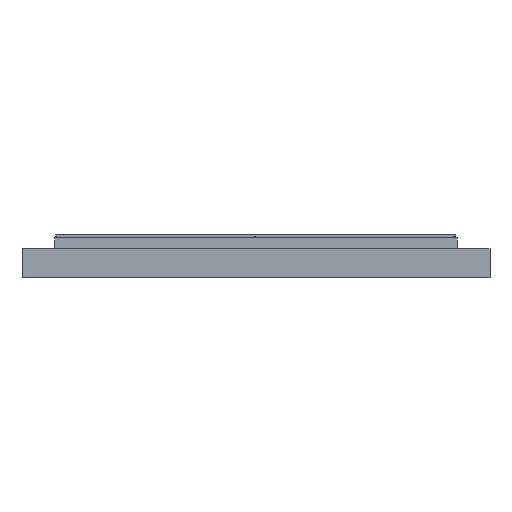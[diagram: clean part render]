
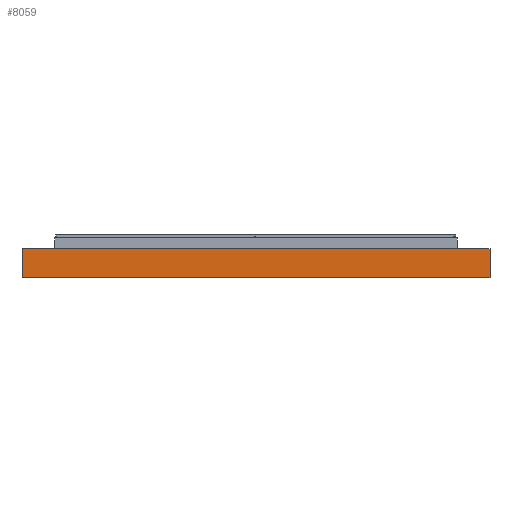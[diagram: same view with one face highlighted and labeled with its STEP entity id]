
A CAD part, front view. The second image highlights one B-rep face of the part: STEP entity #8059.
In plain terms, the highlighted planar face has unit normal (-0.035, -0.999, 0).
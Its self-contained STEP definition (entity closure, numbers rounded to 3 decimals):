
#709 = FACE_OUTER_BOUND ( 'NONE', #6146, .T. ) ;
#1925 = AXIS2_PLACEMENT_3D ( 'NONE', #2815, #23144, #6329 ) ;
#2815 = CARTESIAN_POINT ( 'NONE',  ( 65., 453.755, 8. ) ) ;
#2977 = ORIENTED_EDGE ( 'NONE', *, *, #17693, .F. ) ;
#3110 = EDGE_CURVE ( 'NONE', #14709, #8401, #9892, .T. ) ;
#3506 = VECTOR ( 'NONE', #12921, 1000. ) ;
#3587 = VECTOR ( 'NONE', #10098, 1000. ) ;
#4021 = CARTESIAN_POINT ( 'NONE',  ( 65., 453.755, 0. ) ) ;
#4067 = VECTOR ( 'NONE', #17981, 1000. ) ;
#4391 = LINE ( 'NONE', #4021, #9282 ) ;
#6146 = EDGE_LOOP ( 'NONE', ( #20187, #2977, #6813, #15192 ) ) ;
#6329 = DIRECTION ( 'NONE',  ( 0., 0., -1. ) ) ;
#6813 = ORIENTED_EDGE ( 'NONE', *, *, #9032, .F. ) ;
#7576 = DIRECTION ( 'NONE',  ( -0.999, 0.035, 0. ) ) ;
#8059 = ADVANCED_FACE ( 'NONE', ( #709 ), #17435, .T. ) ;
#8294 = CARTESIAN_POINT ( 'NONE',  ( -64.5, 458.277, 0. ) ) ;
#8401 = VERTEX_POINT ( 'NONE', #15154 ) ;
#9032 = EDGE_CURVE ( 'NONE', #14709, #9750, #14153, .T. ) ;
#9282 = VECTOR ( 'NONE', #7576, 1000. ) ;
#9750 = VERTEX_POINT ( 'NONE', #18028 ) ;
#9892 = LINE ( 'NONE', #10021, #3587 ) ;
#10021 = CARTESIAN_POINT ( 'NONE',  ( 65., 453.755, 8. ) ) ;
#10098 = DIRECTION ( 'NONE',  ( -0.999, 0.035, 0. ) ) ;
#12300 = CARTESIAN_POINT ( 'NONE',  ( -64.5, 458.277, 8. ) ) ;
#12921 = DIRECTION ( 'NONE',  ( 0., 0., 1. ) ) ;
#14153 = LINE ( 'NONE', #14589, #4067 ) ;
#14589 = CARTESIAN_POINT ( 'NONE',  ( 64.5, 453.773, 8. ) ) ;
#14709 = VERTEX_POINT ( 'NONE', #17866 ) ;
#15154 = CARTESIAN_POINT ( 'NONE',  ( -64.5, 458.277, 8. ) ) ;
#15192 = ORIENTED_EDGE ( 'NONE', *, *, #3110, .T. ) ;
#17435 = PLANE ( 'NONE',  #1925 ) ;
#17693 = EDGE_CURVE ( 'NONE', #9750, #20202, #4391, .T. ) ;
#17866 = CARTESIAN_POINT ( 'NONE',  ( 64.5, 453.773, 8. ) ) ;
#17981 = DIRECTION ( 'NONE',  ( 0., 0., -1. ) ) ;
#18028 = CARTESIAN_POINT ( 'NONE',  ( 64.5, 453.773, 0. ) ) ;
#20187 = ORIENTED_EDGE ( 'NONE', *, *, #23751, .F. ) ;
#20202 = VERTEX_POINT ( 'NONE', #8294 ) ;
#22794 = LINE ( 'NONE', #12300, #3506 ) ;
#23144 = DIRECTION ( 'NONE',  ( -0.035, -0.999, 0. ) ) ;
#23751 = EDGE_CURVE ( 'NONE', #20202, #8401, #22794, .T. ) ;
